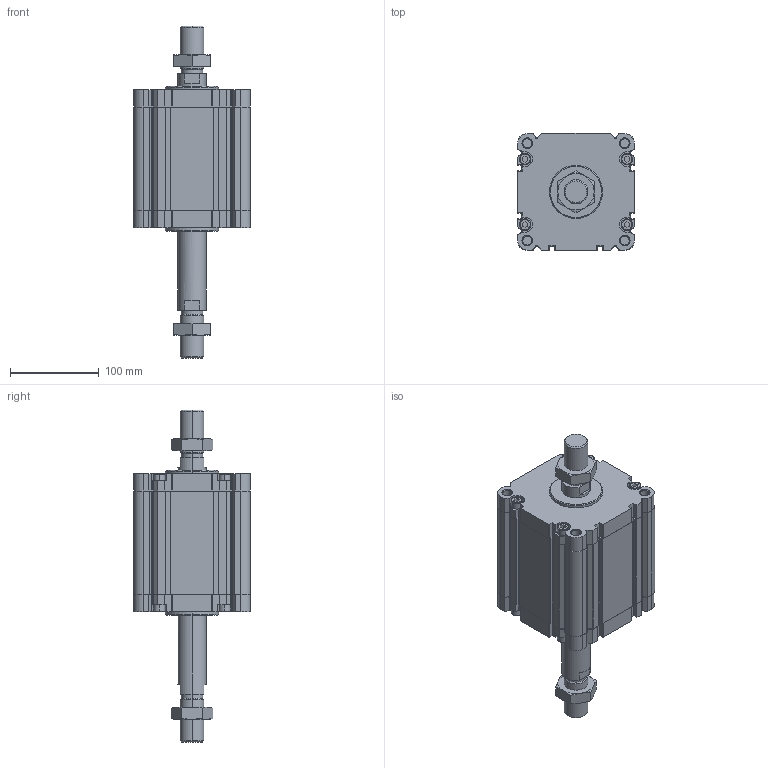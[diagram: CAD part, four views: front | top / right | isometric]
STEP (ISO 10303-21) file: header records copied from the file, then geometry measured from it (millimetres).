
FILE_DESCRIPTION (( 'STEP AP203' ), '1' );
FILE_NAME ('CDVU125-75M-P.STEP', '2020-07-21T16:44:30', ( '' ), ( '' ), 'SwSTEP 2.0', 'SolidWorks 2019', '' );
FILE_SCHEMA (( 'CONFIG_CONTROL_DESIGN' ));
Length unit declared in the file: millimetre
Products named in the file (1): CDVU125-75M-P
Bounding box: 132 x 132 x 375 mm (x, y, z)
Volume: 1938797.9 mm3; surface area: 273868.9 mm2
Topology: 4 solids, 4 shells, 702 faces, 1892 edges, 1230 vertices
Faces by surface type: plane 338, cylinder 280, cone 68, torus 16
Entity records: 22967 total; most frequent: CARTESIAN_POINT 4709, DIRECTION 3930, ORIENTED_EDGE 3776, EDGE_CURVE 1888, AXIS2_PLACEMENT_3D 1363, VERTEX_POINT 1230, VECTOR 1204, LINE 1204
